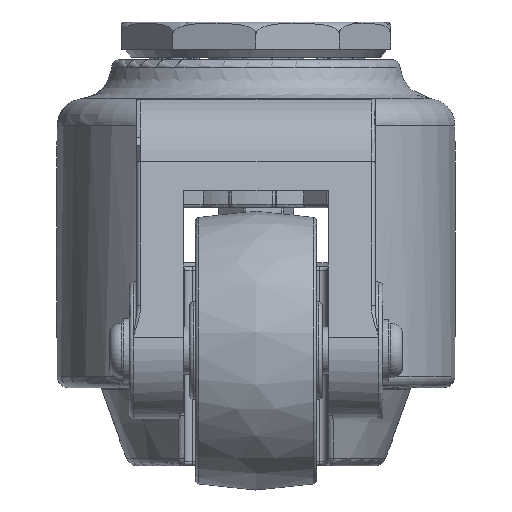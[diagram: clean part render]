
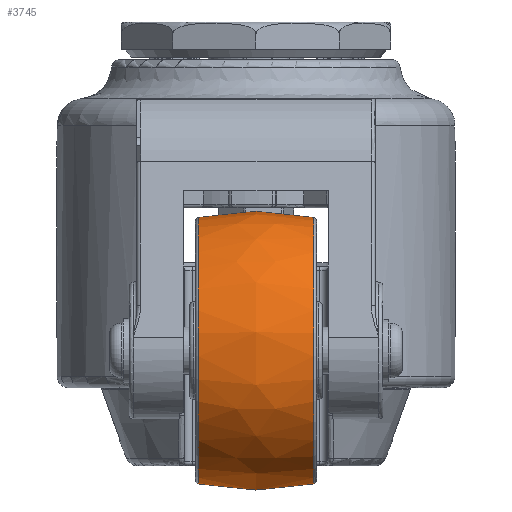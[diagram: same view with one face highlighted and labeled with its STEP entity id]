
A CAD part, left-side view. The second image highlights one B-rep face of the part: STEP entity #3745.
In plain terms, the highlighted free-form (B-spline) face has degree [2, 2] with [3, 9] control points.
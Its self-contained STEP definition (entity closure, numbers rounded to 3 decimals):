
#3681=CARTESIAN_POINT('',(-18.136,14.746,5.013));
#3682=VERTEX_POINT('',#3681);
#3683=CARTESIAN_POINT('',(-52.0,14.746,9.5));
#3684=DIRECTION('',(0.,-1.0,0.));
#3685=DIRECTION('',(0.991,0.,-0.131));
#3686=AXIS2_PLACEMENT_3D('',#3683,#3684,#3685);
#3687=CIRCLE('',#3686,34.16);
#3688=EDGE_CURVE('',#3682,#3682,#3687,.T.);
#3696=CARTESIAN_POINT('',(-47.513,14.746,43.364));
#3697=CARTESIAN_POINT('',(-47.022,0.,47.07));
#3698=CARTESIAN_POINT('',(-47.513,-14.746,43.364));
#3699=CARTESIAN_POINT('',(-13.649,14.746,38.877));
#3700=CARTESIAN_POINT('',(-9.452,0.,42.092));
#3701=CARTESIAN_POINT('',(-13.649,-14.746,38.877));
#3702=CARTESIAN_POINT('',(-18.136,14.746,5.013));
#3703=CARTESIAN_POINT('',(-14.43,0.,4.522));
#3704=CARTESIAN_POINT('',(-18.136,-14.746,5.013));
#3705=CARTESIAN_POINT('',(-22.623,14.746,-28.851));
#3706=CARTESIAN_POINT('',(-19.408,0.,-33.048));
#3707=CARTESIAN_POINT('',(-22.623,-14.746,-28.851));
#3708=CARTESIAN_POINT('',(-56.487,14.746,-24.364));
#3709=CARTESIAN_POINT('',(-56.978,0.,-28.07));
#3710=CARTESIAN_POINT('',(-56.487,-14.746,-24.364));
#3711=CARTESIAN_POINT('',(-90.351,14.746,-19.877));
#3712=CARTESIAN_POINT('',(-94.548,0.,-23.092));
#3713=CARTESIAN_POINT('',(-90.351,-14.746,-19.877));
#3714=CARTESIAN_POINT('',(-85.864,14.746,13.987));
#3715=CARTESIAN_POINT('',(-89.57,0.,14.478));
#3716=CARTESIAN_POINT('',(-85.864,-14.746,13.987));
#3717=CARTESIAN_POINT('',(-81.377,14.746,47.851));
#3718=CARTESIAN_POINT('',(-84.592,0.,52.048));
#3719=CARTESIAN_POINT('',(-81.377,-14.746,47.851));
#3720=CARTESIAN_POINT('',(-47.513,14.746,43.364));
#3721=CARTESIAN_POINT('',(-47.022,0.,47.07));
#3722=CARTESIAN_POINT('',(-47.513,-14.746,43.364));
#3730=(BOUNDED_SURFACE()B_SPLINE_SURFACE(2,2,((#3696,#3699,#3702,#3705,#3708,#3711,#3714,#3717,#3720),(#3697,#3700,#3703,#3706,#3709,#3712,#3715,#3718,#3721),(#3698,#3701,#3704,#3707,#3710,#3713,#3716,#3719,#3722)),.UNSPECIFIED.,.F.,.T.,.U.)B_SPLINE_SURFACE_WITH_KNOTS((3,3),(3,2,2,2,3),(-0.248,0.248),(0.0,1.571,3.142,4.712,6.283),.UNSPECIFIED.)GEOMETRIC_REPRESENTATION_ITEM()RATIONAL_B_SPLINE_SURFACE(((1.0,0.707,1.0,0.707,1.0,0.707,1.0,0.707,1.0),(0.969,0.685,0.969,0.685,0.969,0.685,0.969,0.685,0.969),(1.0,0.707,1.0,0.707,1.0,0.707,1.0,0.707,1.0)))REPRESENTATION_ITEM('')SURFACE());
#3731=ORIENTED_EDGE('',*,*,#3688,.T.);
#3732=EDGE_LOOP('',(#3731));
#3733=FACE_OUTER_BOUND('',#3732,.T.);
#3734=CARTESIAN_POINT('',(-18.136,-14.746,5.013));
#3735=VERTEX_POINT('',#3734);
#3736=CARTESIAN_POINT('',(-52.0,-14.746,9.5));
#3737=DIRECTION('',(0.,-1.0,0.));
#3738=DIRECTION('',(0.991,0.,-0.131));
#3739=AXIS2_PLACEMENT_3D('',#3736,#3737,#3738);
#3740=CIRCLE('',#3739,34.16);
#3741=EDGE_CURVE('',#3735,#3735,#3740,.T.);
#3742=ORIENTED_EDGE('',*,*,#3741,.F.);
#3743=EDGE_LOOP('',(#3742));
#3744=FACE_BOUND('',#3743,.T.);
#3745=ADVANCED_FACE('',(#3733,#3744),#3730,.T.);
